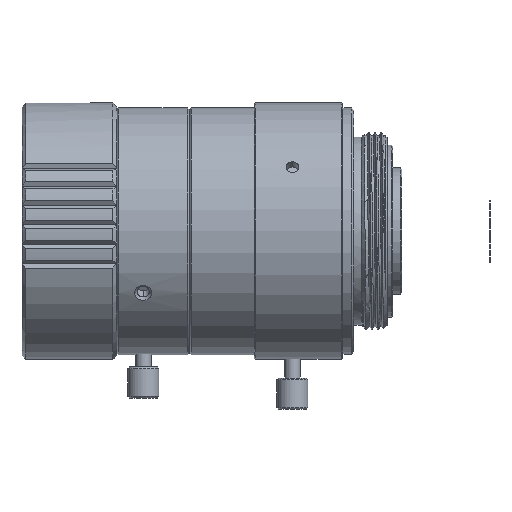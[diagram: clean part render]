
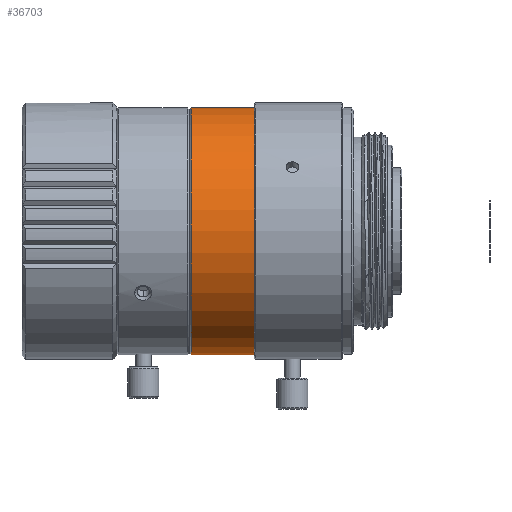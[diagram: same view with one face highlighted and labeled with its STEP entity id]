
A CAD part, left-side view. The second image highlights one B-rep face of the part: STEP entity #36703.
In plain terms, the highlighted cylindrical face has radius 15.9 mm (diameter 31.8 mm), a partial arc.
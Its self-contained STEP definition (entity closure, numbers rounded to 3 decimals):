
#82 = EDGE_CURVE ( 'NONE', #20885, #22021, #8775, .T. ) ;
#2147 = DIRECTION ( 'NONE',  ( 0., 0., -1. ) ) ;
#3774 = EDGE_LOOP ( 'NONE', ( #23689, #16196, #13351, #6834 ) ) ;
#4658 = CARTESIAN_POINT ( 'NONE',  ( 0., 1.045, -15.9 ) ) ;
#4739 = DIRECTION ( 'NONE',  ( 0., -1., 0. ) ) ;
#5295 = CYLINDRICAL_SURFACE ( 'NONE', #27899, 15.9 ) ;
#6547 = VERTEX_POINT ( 'NONE', #23745 ) ;
#6834 = ORIENTED_EDGE ( 'NONE', *, *, #82, .F. ) ;
#8224 = DIRECTION ( 'NONE',  ( 0., -1., 0. ) ) ;
#8775 = LINE ( 'NONE', #4658, #17629 ) ;
#9628 = FACE_OUTER_BOUND ( 'NONE', #3774, .T. ) ;
#11613 = CARTESIAN_POINT ( 'NONE',  ( 0., -1.5, -15.9 ) ) ;
#12714 = VECTOR ( 'NONE', #27681, 1000. ) ;
#13351 = ORIENTED_EDGE ( 'NONE', *, *, #26579, .T. ) ;
#14255 = DIRECTION ( 'NONE',  ( 0., -1., 0. ) ) ;
#15321 = DIRECTION ( 'NONE',  ( 0., 0., -1. ) ) ;
#15348 = DIRECTION ( 'NONE',  ( 0., -1., 0. ) ) ;
#15391 = CARTESIAN_POINT ( 'NONE',  ( 0., -10.3, 0. ) ) ;
#16196 = ORIENTED_EDGE ( 'NONE', *, *, #18756, .T. ) ;
#17629 = VECTOR ( 'NONE', #4739, 1000. ) ;
#18756 = EDGE_CURVE ( 'NONE', #6547, #34022, #20781, .T. ) ;
#20781 = LINE ( 'NONE', #27554, #12714 ) ;
#20885 = VERTEX_POINT ( 'NONE', #11613 ) ;
#22021 = VERTEX_POINT ( 'NONE', #26564 ) ;
#23689 = ORIENTED_EDGE ( 'NONE', *, *, #38911, .F. ) ;
#23745 = CARTESIAN_POINT ( 'NONE',  ( 0., -1.5, 15.9 ) ) ;
#25628 = CARTESIAN_POINT ( 'NONE',  ( 0., -10.3, 15.9 ) ) ;
#26514 = CARTESIAN_POINT ( 'NONE',  ( 0., -1.5, 0. ) ) ;
#26564 = CARTESIAN_POINT ( 'NONE',  ( 0., -10.3, -15.9 ) ) ;
#26579 = EDGE_CURVE ( 'NONE', #34022, #22021, #29237, .T. ) ;
#27554 = CARTESIAN_POINT ( 'NONE',  ( 0., 1.045, 15.9 ) ) ;
#27681 = DIRECTION ( 'NONE',  ( 0., -1., 0. ) ) ;
#27899 = AXIS2_PLACEMENT_3D ( 'NONE', #38402, #14255, #2147 ) ;
#29237 = CIRCLE ( 'NONE', #31833, 15.9 ) ;
#29528 = DIRECTION ( 'NONE',  ( 0., 0., -1. ) ) ;
#30135 = CIRCLE ( 'NONE', #32922, 15.9 ) ;
#31833 = AXIS2_PLACEMENT_3D ( 'NONE', #15391, #15348, #15321 ) ;
#32922 = AXIS2_PLACEMENT_3D ( 'NONE', #26514, #8224, #29528 ) ;
#34022 = VERTEX_POINT ( 'NONE', #25628 ) ;
#36703 = ADVANCED_FACE ( 'NONE', ( #9628 ), #5295, .F. ) ;
#38402 = CARTESIAN_POINT ( 'NONE',  ( 0., 1.045, 0. ) ) ;
#38911 = EDGE_CURVE ( 'NONE', #6547, #20885, #30135, .T. ) ;
